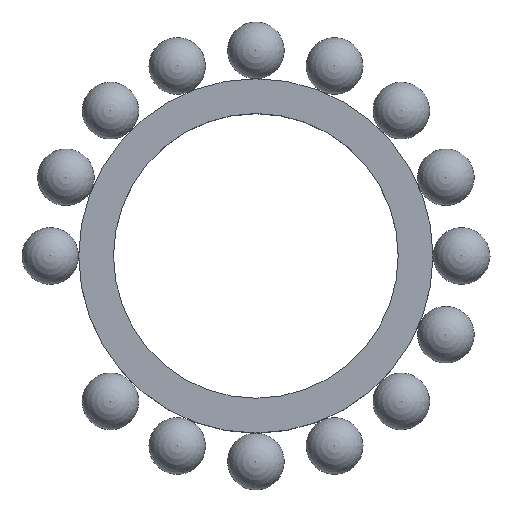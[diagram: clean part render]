
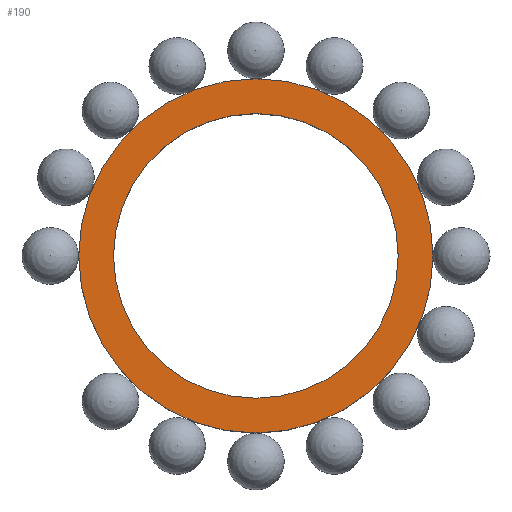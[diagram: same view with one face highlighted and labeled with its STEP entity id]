
A CAD part, top view. The second image highlights one B-rep face of the part: STEP entity #190.
In plain terms, the highlighted planar face has unit normal (0, 0, 1).
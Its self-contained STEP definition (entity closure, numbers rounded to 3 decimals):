
#24 = VERTEX_POINT('',#25);
#25 = CARTESIAN_POINT('',(28.,0.,9.5));
#32 = CYLINDRICAL_SURFACE('',#33,28.);
#33 = AXIS2_PLACEMENT_3D('',#34,#35,#36);
#34 = CARTESIAN_POINT('',(0.,0.,-9.5));
#35 = DIRECTION('',(0.,0.,1.));
#36 = DIRECTION('',(1.,0.,-0.));
#51 = EDGE_CURVE('',#24,#24,#52,.T.);
#52 = SURFACE_CURVE('',#53,(#58,#65),.PCURVE_S1.);
#53 = CIRCLE('',#54,28.);
#54 = AXIS2_PLACEMENT_3D('',#55,#56,#57);
#55 = CARTESIAN_POINT('',(0.,0.,9.5));
#56 = DIRECTION('',(0.,0.,1.));
#57 = DIRECTION('',(1.,0.,-0.));
#58 = PCURVE('',#32,#59);
#59 = DEFINITIONAL_REPRESENTATION('',(#60),#64);
#60 = LINE('',#61,#62);
#61 = CARTESIAN_POINT('',(0.,19.));
#62 = VECTOR('',#63,1.);
#63 = DIRECTION('',(1.,0.));
#64 = ( GEOMETRIC_REPRESENTATION_CONTEXT(2) 
PARAMETRIC_REPRESENTATION_CONTEXT() REPRESENTATION_CONTEXT('2D SPACE',''
  ) );
#65 = PCURVE('',#66,#71);
#66 = PLANE('',#67);
#67 = AXIS2_PLACEMENT_3D('',#68,#69,#70);
#68 = CARTESIAN_POINT('',(0.,0.,9.5));
#69 = DIRECTION('',(0.,0.,1.));
#70 = DIRECTION('',(1.,0.,-0.));
#71 = DEFINITIONAL_REPRESENTATION('',(#72),#76);
#72 = CIRCLE('',#73,28.);
#73 = AXIS2_PLACEMENT_2D('',#74,#75);
#74 = CARTESIAN_POINT('',(0.,0.));
#75 = DIRECTION('',(1.,0.));
#76 = ( GEOMETRIC_REPRESENTATION_CONTEXT(2) 
PARAMETRIC_REPRESENTATION_CONTEXT() REPRESENTATION_CONTEXT('2D SPACE',''
  ) );
#129 = CYLINDRICAL_SURFACE('',#130,22.5);
#130 = AXIS2_PLACEMENT_3D('',#131,#132,#133);
#131 = CARTESIAN_POINT('',(0.,0.,-10.5));
#132 = DIRECTION('',(0.,0.,1.));
#133 = DIRECTION('',(1.,0.,-0.));
#144 = EDGE_CURVE('',#145,#145,#147,.T.);
#145 = VERTEX_POINT('',#146);
#146 = CARTESIAN_POINT('',(22.5,0.,9.5));
#147 = SURFACE_CURVE('',#148,(#153,#160),.PCURVE_S1.);
#148 = CIRCLE('',#149,22.5);
#149 = AXIS2_PLACEMENT_3D('',#150,#151,#152);
#150 = CARTESIAN_POINT('',(0.,0.,9.5));
#151 = DIRECTION('',(0.,0.,1.));
#152 = DIRECTION('',(1.,0.,-0.));
#153 = PCURVE('',#129,#154);
#154 = DEFINITIONAL_REPRESENTATION('',(#155),#159);
#155 = LINE('',#156,#157);
#156 = CARTESIAN_POINT('',(0.,20.));
#157 = VECTOR('',#158,1.);
#158 = DIRECTION('',(1.,0.));
#159 = ( GEOMETRIC_REPRESENTATION_CONTEXT(2) 
PARAMETRIC_REPRESENTATION_CONTEXT() REPRESENTATION_CONTEXT('2D SPACE',''
  ) );
#160 = PCURVE('',#66,#161);
#161 = DEFINITIONAL_REPRESENTATION('',(#162),#166);
#162 = CIRCLE('',#163,22.5);
#163 = AXIS2_PLACEMENT_2D('',#164,#165);
#164 = CARTESIAN_POINT('',(0.,0.));
#165 = DIRECTION('',(1.,0.));
#166 = ( GEOMETRIC_REPRESENTATION_CONTEXT(2) 
PARAMETRIC_REPRESENTATION_CONTEXT() REPRESENTATION_CONTEXT('2D SPACE',''
  ) );
#190 = ADVANCED_FACE('',(#191,#194),#66,.T.);
#191 = FACE_BOUND('',#192,.T.);
#192 = EDGE_LOOP('',(#193));
#193 = ORIENTED_EDGE('',*,*,#51,.T.);
#194 = FACE_BOUND('',#195,.T.);
#195 = EDGE_LOOP('',(#196));
#196 = ORIENTED_EDGE('',*,*,#144,.F.);
